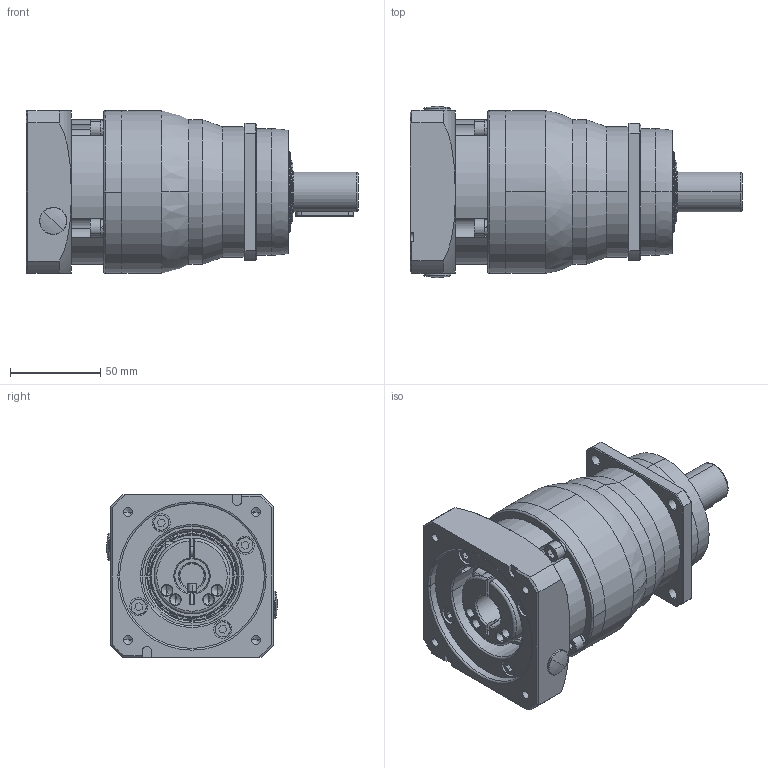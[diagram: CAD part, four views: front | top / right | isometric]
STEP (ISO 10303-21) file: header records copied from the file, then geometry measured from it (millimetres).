
FILE_DESCRIPTION (( 'STEP AP203' ), '1' );
FILE_NAME ('AF75L1-i-P2-S2-19-40-80-100-M6.STEP', '2025-08-26T02:29:02', ( 'User' ), ( '' ), 'SwSTEP 2.0', 'SolidWorks 2020', '' );
FILE_SCHEMA (( 'CONFIG_CONTROL_DESIGN' ));
Length unit declared in the file: millimetre
Products named in the file (1): AF75L1-i-P2-S2-19-40-80-100-M6
Bounding box: 183.5 x 94.6 x 90 mm (x, y, z)
Volume: 744936.4 mm3; surface area: 136493.2 mm2
Topology: 25 solids, 29 shells, 1028 faces, 2619 edges, 1658 vertices
Faces by surface type: cylinder 352, plane 283, torus 151, cone 122, sphere 118, bspline 2
Entity records: 35790 total; most frequent: CARTESIAN_POINT 10540, DIRECTION 5535, ORIENTED_EDGE 5170, EDGE_CURVE 2585, AXIS2_PLACEMENT_3D 2359, VERTEX_POINT 1658, CIRCLE 1332, EDGE_LOOP 1177
